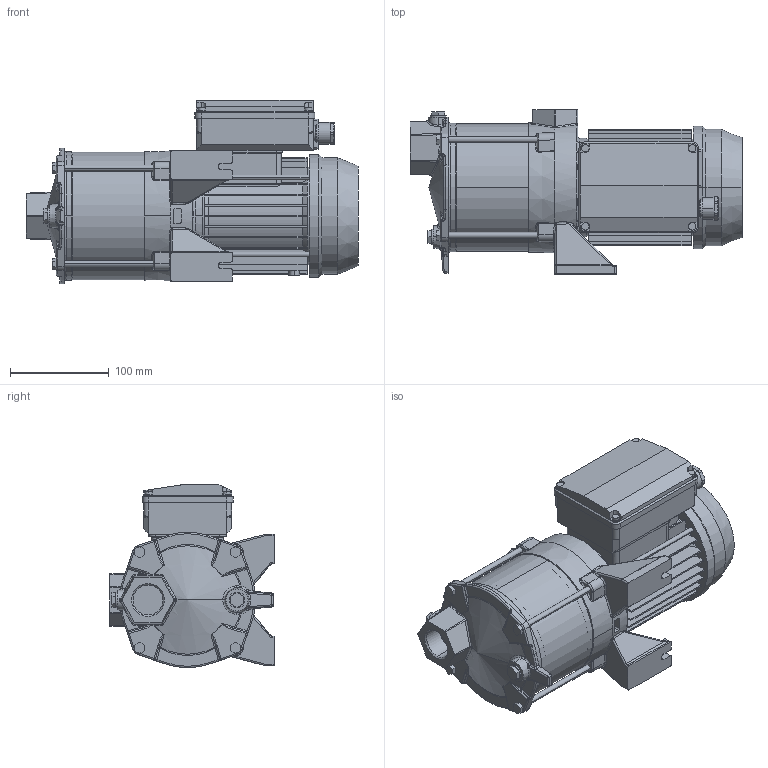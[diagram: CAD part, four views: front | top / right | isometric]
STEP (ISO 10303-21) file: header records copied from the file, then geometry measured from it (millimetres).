
FILE_DESCRIPTION((''),'2;1');
FILE_NAME('COMPACT_AM-6_ASM','2019-09-25T',('rosa'),('"Ebara Pumps Europe +39.444.706811"'),'PRO/ENGINEER BY PARAMETRIC TECHNOLOGY CORPORATION, 2017170','PRO/ENGINEER BY PARAMETRIC TECHNOLOGY CORPORATION, 2017170','');
FILE_SCHEMA(('AUTOMOTIVE_DESIGN { 1 0 10303 214 1 1 1 1 }'));
Length unit declared in the file: millimetre
Products named in the file (7): 2710X_L-73; 80600; MEC_63_MONOFASE_4_TIRANTI; 20998; 40012_M6X112; COPRIMORS_MEC63_E3_SENZA_INT; COMPACT_AM-6_ASM
Assembly tree (9 placements, depth 2):
  COMPACT_AM-6_ASM
    2710X_L-73
    80600
    MEC_63_MONOFASE_4_TIRANTI
    20998
    40012_M6X112  x4
    COPRIMORS_MEC63_E3_SENZA_INT
Bounding box: 335.5 x 166 x 185.5 mm (x, y, z)
Volume: 2528125.7 mm3; surface area: 426516.5 mm2
Topology: 9 solids, 9 shells, 1163 faces, 2754 edges, 1641 vertices
Faces by surface type: plane 420, cylinder 337, bspline 235, cone 85, torus 49, sphere 37
Entity records: 53570 total; most frequent: CARTESIAN_POINT 19876, ORIENTED_EDGE 5360, DIRECTION 4807, PRESENTATION_STYLE_ASSIGNMENT 2687, STYLED_ITEM 2686, CURVE_STYLE 2680, EDGE_CURVE 2680, AXIS2_PLACEMENT_3D 1856
